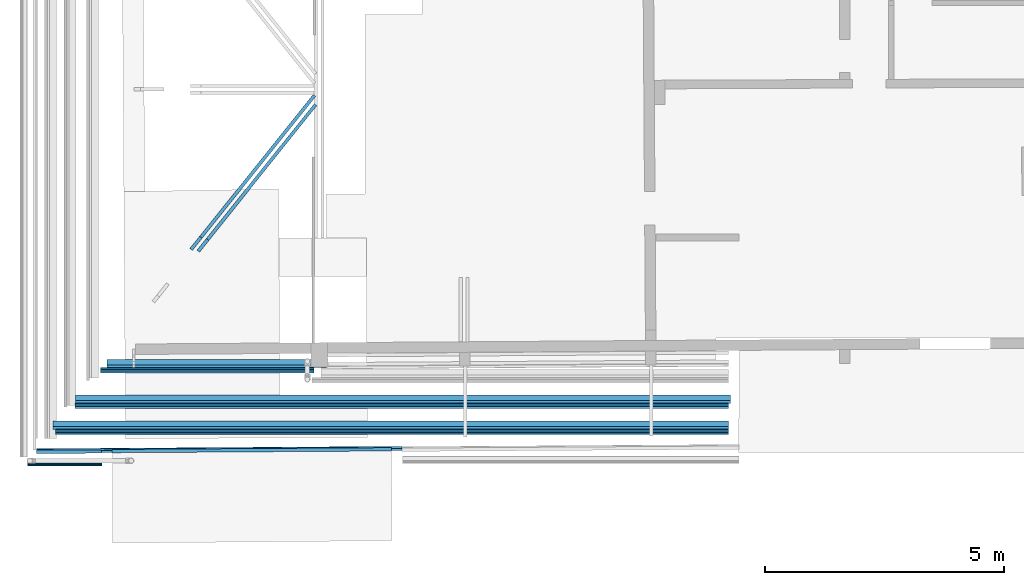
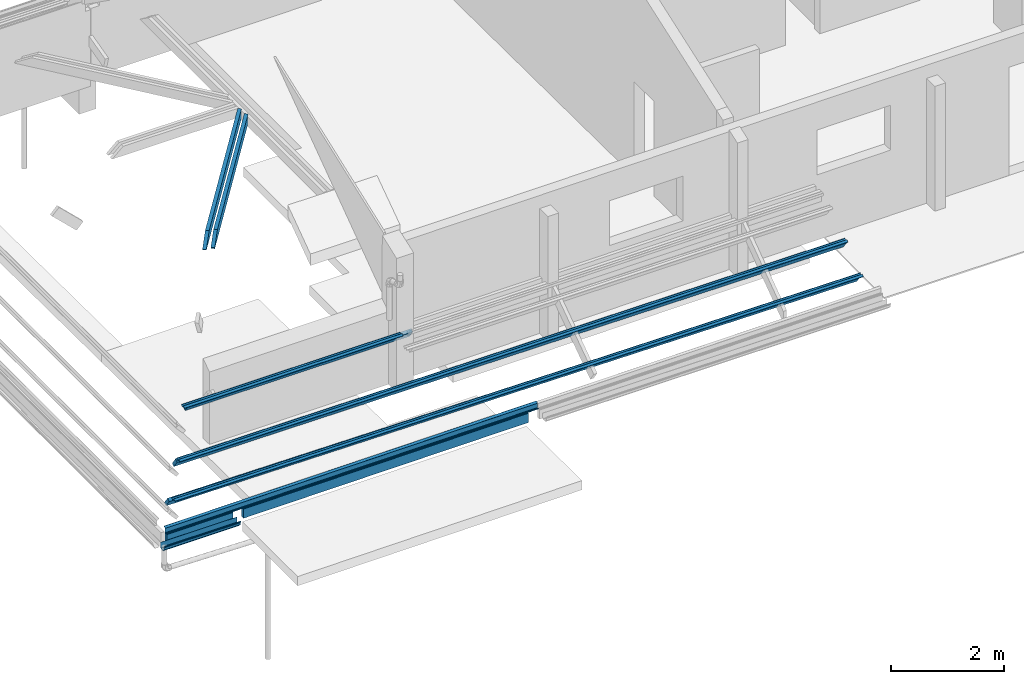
# One storey, part 1 of 15: 12 beams.
"""IFC2X3 building model written with IfcOpenShell, lengths in centimetres."""

import ifcopenshell
import ifcopenshell.guid

model = None  # the IFC model being written
_history = None  # IfcOwnerHistory: only IFC2X3 demands one
_inside = {}  # id of a spatial element -> (the spatial element, [elements in it])
_under = {}  # id of a project, library or spatial element -> (it, [spatial elements below it])
_declared = {}  # id of a project -> (the project, [libraries it declares])
_typed = {}  # id of a type object -> (the type object, [elements of that type])
_made_of = {}  # id of a material, layer set ... -> (it, [elements and type objects made of it])


def new_model(schema):
    """Start an empty IFC model of exactly this schema.

    Asked for "IFC4X3", IfcOpenShell would pick the latest addendum, in which some entities
    have other attributes; the version numbers below select the first issue.
    IFC2X3 requires an IfcOwnerHistory on every rooted entity: one is made here for all.
    """
    global model, _history
    if schema == "IFC4X3":
        model = ifcopenshell.file(schema_version=(4, 3, 0, 0))
    else:
        model = ifcopenshell.file(schema=schema)
    _inside.clear()
    _under.clear()
    _declared.clear()
    _typed.clear()
    _made_of.clear()
    _history = None
    if model.schema == "IFC2X3":
        org = make("IfcOrganization", Name="unknown")
        user = make(
            "IfcPersonAndOrganization",
            ThePerson=make("IfcPerson", FamilyName="unknown"),
            TheOrganization=org,
        )
        app = make(
            "IfcApplication",
            ApplicationDeveloper=org,
            Version="unknown",
            ApplicationFullName="unknown",
            ApplicationIdentifier="unknown",
        )
        _history = make(
            "IfcOwnerHistory",
            OwningUser=user,
            OwningApplication=app,
            ChangeAction="ADDED",
            CreationDate=0,
        )
    return model


def make(cls, **values):
    """One entity of the class cls with the attributes given. An attribute that is None is left unset."""
    return model.create_entity(
        cls, **{name: value for name, value in values.items() if value is not None}
    )


def entity(cls, *values):
    """Any entity or typed value of the class cls, its attributes in the order of the schema. None: left unset."""
    e = model.create_entity(cls)
    for i, value in enumerate(values):
        if value is not None:
            e[i] = value
    return e


def rooted(cls, **values):
    """An entity with a GlobalId (a new one), such as an element, a storey or a relation."""
    return make(cls, GlobalId=ifcopenshell.guid.new(), OwnerHistory=_history, **values)


def si_unit(unit_type, name, prefix=None):
    """IfcSIUnit, for example si_unit("LENGTHUNIT", "METRE", prefix="MILLI")."""
    return make("IfcSIUnit", UnitType=unit_type, Prefix=prefix, Name=name)


def converted_unit(unit_type, name, factor, base, dimensions=None, offset=None):
    """IfcConversionBasedUnit, such as the inch: factor (a typed value) times the base unit."""
    return make(
        "IfcConversionBasedUnit"
        if offset is None
        else "IfcConversionBasedUnitWithOffset",
        ConversionOffset=offset,
        Dimensions=None
        if dimensions is None
        else entity("IfcDimensionalExponents", *dimensions),
        UnitType=unit_type,
        Name=name,
        ConversionFactor=make(
            "IfcMeasureWithUnit", ValueComponent=factor, UnitComponent=base
        ),
    )


def assignment(units):
    """IfcUnitAssignment: the units of a project."""
    return None if units is None else make("IfcUnitAssignment", Units=units)


def point(xyz):
    """IfcCartesianPoint."""
    return None if xyz is None else make("IfcCartesianPoint", Coordinates=xyz)


def direction(xyz):
    """IfcDirection."""
    return None if xyz is None else make("IfcDirection", DirectionRatios=xyz)


def frame(location, z_axis=None, x_axis=None):
    """IfcAxis2Placement3D, a coordinate frame: its origin and axes. An axis left out is left unset."""
    return make(
        "IfcAxis2Placement3D",
        Location=point(location),
        Axis=direction(z_axis),
        RefDirection=direction(x_axis),
    )


def frame_2d(location, x_axis=None):
    """IfcAxis2Placement2D, a coordinate frame in the plane: its origin and x axis."""
    return make(
        "IfcAxis2Placement2D", Location=point(location), RefDirection=direction(x_axis)
    )


def origin():
    """The frame at (0, 0, 0) with its axes left unset."""
    return frame((0.0, 0.0, 0.0))


def place(relative_to, where):
    """IfcLocalPlacement: puts the frame where relative to a parent placement (None: the world)."""
    return make(
        "IfcLocalPlacement", PlacementRelTo=relative_to, RelativePlacement=where
    )


def context(
    kind, dimensions, precision=None, world=None, true_north=None, identifier=None
):
    """IfcGeometricRepresentationContext, for example the 3D "Model" context."""
    return make(
        "IfcGeometricRepresentationContext",
        ContextIdentifier=identifier,
        ContextType=kind,
        CoordinateSpaceDimension=dimensions,
        Precision=precision,
        WorldCoordinateSystem=world,
        TrueNorth=true_north,
    )


def subcontext(parent, identifier, kind, view, scale=None):
    """IfcGeometricRepresentationSubContext, for example "Body" below "Model"."""
    return make(
        "IfcGeometricRepresentationSubContext",
        ContextIdentifier=identifier,
        ContextType=kind,
        ParentContext=parent,
        TargetScale=scale,
        TargetView=view,
    )


def project(units=None, contexts=None):
    """IfcProject with its units and contexts."""
    return rooted(
        "IfcProject",
        Name="project",
        RepresentationContexts=contexts,
        UnitsInContext=assignment(units),
    )


def spatial(cls, under=None, at=None, **own):
    """A site, building, storey or space (cls), placed at a placement, below another one or the project."""
    s = rooted(cls, ObjectPlacement=at, **own)
    if under is not None:
        _under.setdefault(under.id(), (under, []))[1].append(s)
    return s


def polyline(points):
    """IfcPolyline through the points."""
    return make("IfcPolyline", Points=[point(p) for p in points])


def circle_curve(where, radius):
    """IfcCircle in the frame where."""
    return make("IfcCircle", Position=where, Radius=radius)


def parameter(value):
    """IfcParameterValue: where a trimmed curve begins or ends, as a parameter of its basis curve."""
    return model.create_entity("IfcParameterValue", value)


def trimmed(basis, trim1, trim2, sense, master):
    """IfcTrimmedCurve: the piece of a basis curve between two trims."""
    return make(
        "IfcTrimmedCurve",
        BasisCurve=basis,
        Trim1=trim1,
        Trim2=trim2,
        SenseAgreement=sense,
        MasterRepresentation=master,
    )


def segment(curve, same_sense, transition):
    """IfcCompositeCurveSegment."""
    return make(
        "IfcCompositeCurveSegment",
        Transition=transition,
        SameSense=same_sense,
        ParentCurve=curve,
    )


def composite_curve(segments, self_intersect=None):
    """IfcCompositeCurve: segments joined end to end."""
    return make("IfcCompositeCurve", Segments=segments, SelfIntersect=self_intersect)


def profile(cls, at=None, kind="AREA", **sizes):
    """A parametric profile (cls). Its sizes go by their IFC names, for example OverallWidth=200.0."""
    return make(cls, ProfileType=kind, Position=at, **sizes)


def rectangle(**sizes):
    """IfcRectangleProfileDef."""
    return profile("IfcRectangleProfileDef", **sizes)


def outline(outer, holes=None, kind="AREA"):
    """IfcArbitraryClosedProfileDef: a profile drawn as a closed curve; with holes, ...WithVoids."""
    if holes is None:
        return make("IfcArbitraryClosedProfileDef", ProfileType=kind, OuterCurve=outer)
    return make(
        "IfcArbitraryProfileDefWithVoids",
        ProfileType=kind,
        OuterCurve=outer,
        InnerCurves=holes,
    )


def extrude(swept, where, along, depth):
    """IfcExtrudedAreaSolid: the profile swept, set in the frame where, extruded along a direction by depth."""
    return make(
        "IfcExtrudedAreaSolid",
        SweptArea=swept,
        Position=where,
        ExtrudedDirection=direction(along),
        Depth=depth,
    )


def clip(a, b, op="DIFFERENCE"):
    """IfcBooleanClippingResult: the solid a cut by the half space b."""
    return make(
        "IfcBooleanClippingResult", Operator=op, FirstOperand=a, SecondOperand=b
    )


def halfspace(plane, agree):
    """IfcHalfSpaceSolid: all space on one side of the plane z = 0 of the frame plane."""
    return make(
        "IfcHalfSpaceSolid",
        BaseSurface=make("IfcPlane", Position=plane),
        AgreementFlag=agree,
    )


def shape(context_of_items, identifier, shape_type, items):
    """IfcShapeRepresentation: the items that make up one representation, for example the "Body"."""
    return make(
        "IfcShapeRepresentation",
        ContextOfItems=context_of_items,
        RepresentationIdentifier=identifier,
        RepresentationType=shape_type,
        Items=items,
    )


def material(Name=None, Category=None):
    """IfcMaterial."""
    return make("IfcMaterial", Name=Name, Category=Category)


def made_of(thing, what):
    """Note that an element or type object is made of a material, layer set ...; save() writes the relation."""
    if what is not None:
        _made_of.setdefault(what.id(), (what, []))[1].append(thing)
    return thing


def type_object(cls, material=None, **own):
    """A type object (cls), such as IfcWallType, which elements share."""
    return made_of(rooted(cls, **own), material)


def element(
    cls,
    number,
    at=None,
    inside=None,
    cuts=None,
    type_object=None,
    material=None,
    context=None,
    identifier="Body",
    shape_type=None,
    held_by="IfcProductDefinitionShape",
    body=None,
    shapes=None,
    **own,
):
    """One element of the class cls, such as IfcWall. Its Tag is "e" and its number.

    at: its placement. inside: the storey or other place that contains it. cuts: it is an
    opening in that element (IfcRelVoidsElement). A single representation is given by context,
    identifier, shape_type and body (its items); several are given by shapes. held_by: the class
    of the entity that holds the representations. save() writes the other relations.
    """
    e = rooted(cls, Tag="e%d" % number, ObjectPlacement=at, **own)
    if body is not None:
        shapes = [shape(context, identifier, shape_type, body)]
    if shapes is not None:
        e.Representation = make(held_by, Representations=shapes)
    if inside is not None:
        _inside.setdefault(inside.id(), (inside, []))[1].append(e)
    if cuts is not None:
        rooted(
            "IfcRelVoidsElement", RelatingBuildingElement=cuts, RelatedOpeningElement=e
        )
    if type_object is not None:
        _typed.setdefault(type_object.id(), (type_object, []))[1].append(e)
    return made_of(e, material)


def aggregate(whole, parts):
    """IfcRelAggregates: a whole, such as a stair, and the parts it consists of."""
    return rooted("IfcRelAggregates", RelatingObject=whole, RelatedObjects=parts)


def save(model, path):
    """Write the relations noted so far, then the file.

    IfcRelAggregates (storeys below a building ...), IfcRelContainedInSpatialStructure (elements
    in a storey), IfcRelDefinesByType, IfcRelAssociatesMaterial and IfcRelDeclares: one each for
    every whole, place, type object, material and project.
    """
    for whole, parts in _under.values():
        aggregate(whole, parts)
    for where, things in _inside.values():
        rooted(
            "IfcRelContainedInSpatialStructure",
            RelatedElements=things,
            RelatingStructure=where,
        )
    for kind, things in _typed.values():
        rooted("IfcRelDefinesByType", RelatedObjects=things, RelatingType=kind)
    for what, things in _made_of.values():
        rooted("IfcRelAssociatesMaterial", RelatedObjects=things, RelatingMaterial=what)
    for by, libraries in _declared.values():
        rooted("IfcRelDeclares", RelatingContext=by, RelatedDefinitions=libraries)
    model.write(path)


model = new_model("IFC2X3")

# Units and contexts
model_context = context("Model", 3, precision=0.001, world=frame((0.0, 0.0, 13090.0)), true_north=direction((6.123233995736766e-17, 1.0)))
body_context = subcontext(model_context, "Body", "Model", "MODEL_VIEW")
ifc_project = project(units=[si_unit("LENGTHUNIT", "METRE", prefix="CENTI"), si_unit("AREAUNIT", "SQUARE_METRE"), si_unit("VOLUMEUNIT", "CUBIC_METRE"), converted_unit("PLANEANGLEUNIT", "DEGREE", entity("IfcPlaneAngleMeasure", 0.017453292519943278), si_unit("PLANEANGLEUNIT", "RADIAN"), dimensions=[0, 0, 0, 0, 0, 0, 0])], contexts=[model_context])

# Site, building, storey
site_placement = place(None, origin())
site = spatial("IfcSite", under=ifc_project, at=site_placement, Name="Default", CompositionType="ELEMENT")
building_placement = place(site_placement, origin())
building = spatial("IfcBuilding", under=site, at=building_placement, Name="e 39 logements et 22 maisons relais", CompositionType="ELEMENT")
storey_placement = place(building_placement, frame((0.0, 0.0, 340.0)))
storey = spatial("IfcBuildingStorey", under=building, at=storey_placement, Name="R+1", CompositionType="ELEMENT", Elevation=339.99999999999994)

# Beams
ifc_material_1 = material(Name="Bois - Bois de construction de dimensions courantes")
beam_type_1 = type_object("IfcBeamType", Name="Poutre - Bois de construction de dimensions courantes:70 200", PredefinedType="BEAM")
beam_1_placement = place(storey_placement, frame((-682.3302602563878, -676.9245388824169, 66.4), z_axis=(0.00323814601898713, 0.0, 0.9999947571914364), x_axis=(-0.9999947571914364, 0.0, 0.00323814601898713)))
element("IfcBeam", 1, at=beam_1_placement, inside=storey, type_object=beam_type_1, material=ifc_material_1, Name="Poutre - Bois de construction de dimensions courantes:70 200", ObjectType="Poutre - Bois de construction de dimensions courantes:70 200", context=body_context, shape_type="SweptSolid", body=[
    extrude(rectangle(XDim=20.00000000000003, YDim=7.000000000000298, at=frame_2d((1.2656542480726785e-14, 7.638334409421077e-14), x_axis=(0.0, 1.0))), frame((-629.9997113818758, -5.516678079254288, -7.734097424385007), z_axis=(1.0, 0.0, 0.0), x_axis=(0.0, -0.8141155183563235, 0.580702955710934)), (0.0, 0.0, 1.0), 1370.1000000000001),
])
beam_2_placement = place(storey_placement, frame((-578.1460418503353, -730.9865507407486, 27.30000000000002), z_axis=(0.006282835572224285, 0.0, 0.9999802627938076), x_axis=(-0.9999802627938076, 0.0, 0.006282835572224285)))
element("IfcBeam", 2, at=beam_2_placement, inside=storey, type_object=beam_type_1, material=ifc_material_1, Name="Poutre - Bois de construction de dimensions courantes:70 200", ObjectType="Poutre - Bois de construction de dimensions courantes:70 200", context=body_context, shape_type="SweptSolid", body=[
    extrude(rectangle(XDim=20.000000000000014, YDim=7.000000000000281, at=frame_2d((-7.549516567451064e-14, 1.2434497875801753e-14), x_axis=(0.0, 1.0))), frame((-522.1366470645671, -5.4005374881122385, -7.571274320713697), z_axis=(1.0, 0.0, 0.0), x_axis=(0.0, -0.8141155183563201, 0.5807029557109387)), (0.0, 0.0, 1.0), 1413.9313977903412),
])
beam_3_placement = place(storey_placement, frame((-972.4380074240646, -120.34924568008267, 266.32572503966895), z_axis=(0.0, 0.0, 1.0), x_axis=(-0.6248402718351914, -0.7807526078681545, 0.0)))
element("IfcBeam", 3, at=beam_3_placement, inside=storey, type_object=beam_type_1, material=ifc_material_1, Name="Poutre - Bois de construction de dimensions courantes:70 200", ObjectType="Poutre - Bois de construction de dimensions courantes:70 200", context=body_context, shape_type="Clipping", body=[
    clip(extrude(rectangle(XDim=20.0, YDim=7.000000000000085, at=frame_2d((1.20570220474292e-13, 0.0), x_axis=(0.0, 1.0))), frame((-83.49252089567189, 0.0, -10.0), z_axis=(1.0, 0.0, 0.0), x_axis=(0.0, 1.0, 0.0)), (0.0, 0.0, 1.0), 392.55819188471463), halfspace(frame((221.00747817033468, -392.55819188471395, 31.60814003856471), z_axis=(0.48692450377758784, 0.0, 0.8734440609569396), x_axis=(0.0, 1.0, 0.0)), False)),
])
beam_4_placement = place(storey_placement, frame((-983.3685439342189, -111.60148187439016, 266.32572503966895), z_axis=(0.0, 0.0, 1.0), x_axis=(-0.6248402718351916, -0.7807526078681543, 0.0)))
element("IfcBeam", 4, at=beam_4_placement, inside=storey, type_object=beam_type_1, material=ifc_material_1, Name="Poutre - Bois de construction de dimensions courantes:70 200", ObjectType="Poutre - Bois de construction de dimensions courantes:70 200", context=body_context, shape_type="Clipping", body=[
    clip(extrude(rectangle(XDim=20.0, YDim=7.000000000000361, at=frame_2d((-1.0658141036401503e-14, 0.0), x_axis=(0.0, 1.0))), frame((-97.31685809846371, 0.0, -10.0), z_axis=(1.0, 0.0, 0.0), x_axis=(0.0, 1.0, 0.0)), (0.0, 0.0, 1.0), 413.0179422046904), halfspace(frame((221.00747817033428, -413.01794220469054, 34.89691046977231), z_axis=(0.49070508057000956, 0.0, 0.8713257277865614), x_axis=(0.0, 1.0, 0.0)), False)),
])
beam_5_placement = place(storey_placement, frame((-682.3302602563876, -602.3023594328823, 121.48453251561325), z_axis=(0.0, 0.0, 1.0), x_axis=(-1.0, 0.0, 0.0)))
element("IfcBeam", 5, at=beam_5_placement, inside=storey, type_object=beam_type_1, material=ifc_material_1, Name="Poutre - Bois de construction de dimensions courantes:70 200", ObjectType="Poutre - Bois de construction de dimensions courantes:70 200", context=body_context, shape_type="SweptSolid", body=[
    extrude(rectangle(XDim=20.000000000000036, YDim=7.000000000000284, at=frame_2d((-4.39648317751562e-14, -3.108624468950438e-14), x_axis=(0.0, 1.0))), frame((214.65114831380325, -5.807029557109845, -8.141155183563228), z_axis=(1.0, 0.0, 0.0), x_axis=(0.0, -0.8141155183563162, 0.5807029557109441)), (0.0, 0.0, 1.0), 459.42130636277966),
])
beam_6_placement = place(storey_placement, frame((-1904.5647430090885, -784.2270481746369, 14.985725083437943), z_axis=(0.0, 0.0, 1.0), x_axis=(-0.9999784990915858, -0.006557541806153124, 0.0)))
element("IfcBeam", 6, at=beam_6_placement, inside=storey, type_object=beam_type_1, material=ifc_material_1, Name="Poutre - Bois de construction de dimensions courantes:70 200", ObjectType="Poutre - Bois de construction de dimensions courantes:70 200", context=body_context, shape_type="SweptSolid", body=[
    extrude(rectangle(XDim=20.0, YDim=7.000000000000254, at=frame_2d((0.0, 5.395683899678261e-14), x_axis=(1.0, 0.0))), frame((-536.6670283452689, 0.0, -22.0), z_axis=(1.0, 0.0, 0.0), x_axis=(0.0, 0.0, -1.0)), (0.0, 0.0, 1.0), 135.86089735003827),
])
beam_7_placement = place(storey_placement, frame((-1563.8253121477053, -781.4344195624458, 14.016671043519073), z_axis=(0.0, 0.0, 1.0), x_axis=(-0.9999784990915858, -0.006557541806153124, 0.0)))
element("IfcBeam", 7, at=beam_7_placement, inside=storey, type_object=beam_type_1, material=ifc_material_1, Name="Poutre - Bois de construction de dimensions courantes:70 200", ObjectType="Poutre - Bois de construction de dimensions courantes:70 200", context=body_context, shape_type="SweptSolid", body=[
    extrude(rectangle(XDim=20.0, YDim=7.000000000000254, at=frame_2d((0.0, 5.395683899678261e-14), x_axis=(1.0, 0.0))), frame((-802.5806336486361, 0.0, -22.0), z_axis=(1.0, 0.0, 0.0), x_axis=(0.0, 0.0, -1.0)), (0.0, 0.0, 1.0), 584.6640227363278),
])
ifc_material_2 = material(Name="neuf")
beam_type_2 = type_object("IfcBeamType", Name="gouttiere ALU G400:gouttiere ALU G400", PredefinedType="BEAM")
beam_8_placement = place(storey_placement, frame((-1710.1057664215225, -795.8693546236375, 20.53905233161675), z_axis=(0.0, 0.0, 1.0), x_axis=(-1.0, 0.0, 0.0)))
element("IfcBeam", 8, at=beam_8_placement, inside=storey, type_object=beam_type_2, material=ifc_material_2, Name="gouttiere ALU G400:gouttiere ALU G400", ObjectType="gouttiere ALU G400:gouttiere ALU G400", context=body_context, shape_type="SweptSolid", body=[
    extrude(outline(composite_curve([segment(polyline([(-6.028675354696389, -10.418144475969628), (4.915125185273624, -10.418144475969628)]), True, "CONTINUOUS"), segment(trimmed(circle_curve(frame_2d((4.482502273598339, -7.967211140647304), x_axis=(0.17382635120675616, -0.9847763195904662)), 2.4888223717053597), [parameter(0.0)], [parameter(79.98963375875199)], True, "PARAMETER"), True, "CONTINUOUS"), segment(polyline([(6.971324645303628, -7.967211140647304), (6.971324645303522, -1.467211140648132)]), True, "CONTINUOUS"), segment(trimmed(circle_curve(frame_2d((5.6045317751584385, -1.4672111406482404), x_axis=(1.0, 0.0)), 1.366792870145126), [parameter(0.0)], [parameter(80.76228289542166)], True, "PARAMETER"), True, "CONTINUOUS"), segment(polyline([(5.823944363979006, -0.1181444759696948), (4.738394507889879, -0.1181444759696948)]), True, "CONTINUOUS"), segment(trimmed(circle_curve(frame_2d((4.738394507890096, 0.5488704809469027), x_axis=(0.0, -1.0)), 0.6670149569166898), [parameter(270.00000000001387)], [parameter(0.0)], True, "PARAMETER"), False, "CONTINUOUS"), segment(trimmed(circle_curve(frame_2d((2.651166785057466, 0.5488704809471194), x_axis=(1.0, 0.0)), 1.4202127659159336), [parameter(0.0)], [parameter(75.70274320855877)], True, "PARAMETER"), True, "CONTINUOUS"), segment(polyline([(3.001892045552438, 1.9250957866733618), (-3.0280800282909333, 2.8687394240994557)]), True, "CONTINUOUS"), segment(trimmed(circle_curve(frame_2d((-2.8287143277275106, 3.633036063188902), x_axis=(-0.2524028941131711, -0.9676222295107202)), 0.7898708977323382), [parameter(284.61974875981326)], [parameter(0.0)], True, "PARAMETER"), False, "CONTINUOUS"), segment(polyline([(-3.6185852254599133, 3.633036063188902), (-3.6185852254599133, 4.392159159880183)]), True, "CONTINUOUS"), segment(trimmed(circle_curve(frame_2d((-4.4100640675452, 4.3921591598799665), x_axis=(1.0, 0.0)), 0.7914788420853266), [parameter(0.0)], [parameter(89.9999999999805)], True, "PARAMETER"), True, "CONTINUOUS"), segment(polyline([(-4.410064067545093, 5.183638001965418), (-4.5969640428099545, 5.183638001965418)]), True, "CONTINUOUS"), segment(trimmed(circle_curve(frame_2d((-4.5969640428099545, 4.455817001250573), x_axis=(0.0, 1.0)), 0.7278210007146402), [parameter(0.0)], [parameter(90.00000000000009)], True, "PARAMETER"), True, "CONTINUOUS"), segment(polyline([(-5.324785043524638, 4.455817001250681), (-5.509735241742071, 2.716322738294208)]), True, "CONTINUOUS"), segment(polyline([(-5.509735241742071, 2.7163227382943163), (-5.30863358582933, 2.7163227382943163)]), True, "CONTINUOUS"), segment(polyline([(-5.308633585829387, 2.7163227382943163), (-5.126213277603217, 4.451936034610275)]), True, "CONTINUOUS"), segment(trimmed(circle_curve(frame_2d((-4.59629378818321, 4.451936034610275), x_axis=(-1.0, 0.0)), 0.5299194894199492), [parameter(269.99999999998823)], [parameter(0.0)], True, "PARAMETER"), False, "CONTINUOUS"), segment(polyline([(-4.596293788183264, 4.981855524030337), (-4.409626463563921, 4.981855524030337)]), True, "CONTINUOUS"), segment(trimmed(circle_curve(frame_2d((-4.409626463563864, 4.391273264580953), x_axis=(0.0, 1.0)), 0.5905822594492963), [parameter(269.9999999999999)], [parameter(0.0)], True, "PARAMETER"), False, "CONTINUOUS"), segment(polyline([(-3.8190442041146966, 4.391273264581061), (-3.8190442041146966, 3.6331166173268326)]), True, "CONTINUOUS"), segment(trimmed(circle_curve(frame_2d((-2.8289568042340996, 3.633116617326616), x_axis=(-1.0, 0.0)), 0.99008739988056), [parameter(0.0)], [parameter(75.99999999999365)], True, "PARAMETER"), True, "CONTINUOUS"), segment(polyline([(-3.0684806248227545, 2.6724390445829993), (2.9612947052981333, 1.729014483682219)]), True, "CONTINUOUS"), segment(trimmed(circle_curve(frame_2d((2.6511667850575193, 0.5488704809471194), x_axis=(0.25415888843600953, 0.9671624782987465)), 1.2202127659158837), [parameter(284.72375106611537)], [parameter(0.0)], True, "PARAMETER"), False, "CONTINUOUS"), segment(trimmed(circle_curve(frame_2d((4.738394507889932, 0.5488704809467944), x_axis=(-1.0, 0.0)), 0.8670149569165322), [parameter(0.0)], [parameter(90.00000000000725)], True, "PARAMETER"), True, "CONTINUOUS"), segment(polyline([(4.738394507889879, -0.3181444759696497), (5.80714323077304, -0.3181444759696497)]), True, "CONTINUOUS"), segment(trimmed(circle_curve(frame_2d((5.604531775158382, -1.4672111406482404), x_axis=(0.17364817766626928, 0.9848077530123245)), 1.166792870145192), [parameter(279.9999999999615)], [parameter(0.0)], True, "PARAMETER"), False, "CONTINUOUS"), segment(polyline([(6.7713246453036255, -1.467211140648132), (6.7713246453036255, -7.967211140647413)]), True, "CONTINUOUS"), segment(trimmed(circle_curve(frame_2d((4.482502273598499, -7.967211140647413), x_axis=(1.0, 0.0)), 2.2888223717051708), [parameter(280.43973077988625)], [parameter(0.0)], True, "PARAMETER"), False, "CONTINUOUS"), segment(polyline([(4.897239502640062, -10.218144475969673), (-6.028675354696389, -10.218144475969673)]), True, "CONTINUOUS"), segment(polyline([(-6.028675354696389, -10.218144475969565), (-6.028675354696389, -10.418144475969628)]), True, "CONTINUOUS")], self_intersect=False)), frame((-343.1057670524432, 10.218144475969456, -27.028675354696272), z_axis=(1.0, 0.0, 0.0), x_axis=(0.0, 0.0, -1.0)), (0.0, 0.0, 1.0), 156.03529920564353),
])
beam_type_3 = type_object("IfcBeamType", Name="panne z:panne z", PredefinedType="BEAM")
beam_9_placement = place(storey_placement, frame((-570.9302602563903, -612.3344507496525, 129.93641653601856), z_axis=(0.0, 0.0, 1.0), x_axis=(-1.0, 0.0, 0.0)))
element("IfcBeam", 9, at=beam_9_placement, inside=storey, type_object=beam_type_3, material=ifc_material_2, Name="panne z:panne z", ObjectType="panne z:panne z", context=body_context, shape_type="SweptSolid", body=[
    extrude(outline(composite_curve([segment(polyline([(-4.5999999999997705, -3.0), (-0.29999999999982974, -3.0)]), True, "CONTINUOUS"), segment(trimmed(circle_curve(frame_2d((-0.29999999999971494, -2.600000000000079), x_axis=(0.0, -1.0)), 0.399999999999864), [parameter(0.0)], [parameter(90.00000000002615)], True, "PARAMETER"), True, "CONTINUOUS"), segment(polyline([(0.10000000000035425, -2.5999999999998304), (0.10000000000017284, 2.600000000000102)]), True, "CONTINUOUS"), segment(trimmed(circle_curve(frame_2d((0.30000000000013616, 2.600000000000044), x_axis=(-1.0, 0.0)), 0.20000000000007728), [parameter(270.00000000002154)], [parameter(0.0)], True, "PARAMETER"), False, "CONTINUOUS"), segment(polyline([(0.3000000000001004, 2.800000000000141), (4.600000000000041, 2.8000000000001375)]), True, "CONTINUOUS"), segment(trimmed(circle_curve(frame_2d((4.6000000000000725, 2.600000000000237), x_axis=(0.0, 1.0)), 0.20000000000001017), [parameter(270.00000000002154)], [parameter(0.0)], True, "PARAMETER"), False, "CONTINUOUS"), segment(polyline([(4.800000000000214, 2.600000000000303), (4.800000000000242, 1.0)]), True, "CONTINUOUS"), segment(polyline([(4.800000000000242, 1.0), (5.0, 1.0)]), True, "CONTINUOUS"), segment(polyline([(5.0, 1.0), (5.0, 2.6000000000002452)]), True, "CONTINUOUS"), segment(trimmed(circle_curve(frame_2d((4.600000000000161, 2.600000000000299), x_axis=(1.0, 0.0)), 0.3999999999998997), [parameter(0.0)], [parameter(90.00000000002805)], True, "PARAMETER"), True, "CONTINUOUS"), segment(polyline([(4.600000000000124, 3.0), (0.3000000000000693, 3.0)]), True, "CONTINUOUS"), segment(trimmed(circle_curve(frame_2d((0.2999999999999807, 2.6000000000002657), x_axis=(0.0, 1.0)), 0.399999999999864), [parameter(0.0)], [parameter(90.00000000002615)], True, "PARAMETER"), True, "CONTINUOUS"), segment(polyline([(-0.09999999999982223, 2.6000000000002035), (-0.09999999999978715, -2.599999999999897)]), True, "CONTINUOUS"), segment(trimmed(circle_curve(frame_2d((-0.29999999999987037, -2.5999999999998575), x_axis=(1.0, 0.0)), 0.20000000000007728), [parameter(270.00000000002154)], [parameter(0.0)], True, "PARAMETER"), False, "CONTINUOUS"), segment(polyline([(-0.2999999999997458, -2.7999999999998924), (-4.599999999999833, -2.800000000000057)]), True, "CONTINUOUS"), segment(trimmed(circle_curve(frame_2d((-4.599999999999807, -2.6000000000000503), x_axis=(0.0, -1.0)), 0.20000000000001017), [parameter(270.00000000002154)], [parameter(0.0)], True, "PARAMETER"), False, "CONTINUOUS"), segment(polyline([(-4.799999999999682, -2.5999999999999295), (-4.799999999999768, -1.0)]), True, "CONTINUOUS"), segment(polyline([(-4.799999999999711, -1.0), (-5.0, -1.0)]), True, "CONTINUOUS"), segment(polyline([(-5.0, -1.0), (-5.0, -2.6000000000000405)]), True, "CONTINUOUS"), segment(trimmed(circle_curve(frame_2d((-4.599999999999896, -2.6000000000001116), x_axis=(-1.0, 0.0)), 0.3999999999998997), [parameter(0.0)], [parameter(90.00000000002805)], True, "PARAMETER"), True, "CONTINUOUS")], self_intersect=False)), frame((352.09921444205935, -1.5385808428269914, -2.1973211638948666), z_axis=(1.0, 0.0, 0.0), x_axis=(0.0, -0.8191520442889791, 0.5735764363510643)), (0.0, 0.0, 1.0), 447.4095919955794),
])
beam_10_placement = place(storey_placement, frame((-570.9302602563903, -686.7266823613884, 75.59999999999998), z_axis=(0.0022573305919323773, 0.0, 0.9999974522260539), x_axis=(-0.9999974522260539, 0.0, 0.0022573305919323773)))
element("IfcBeam", 10, at=beam_10_placement, inside=storey, type_object=beam_type_3, material=ifc_material_2, Name="panne z:panne z", ObjectType="panne z:panne z", context=body_context, shape_type="SweptSolid", body=[
    extrude(outline(composite_curve([segment(polyline([(-4.599999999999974, -3.0), (-0.29999999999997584, -3.0)]), True, "CONTINUOUS"), segment(trimmed(circle_curve(frame_2d((-0.2999999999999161, -2.599999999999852), x_axis=(0.0, -1.0)), 0.3999999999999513), [parameter(0.0)], [parameter(90.00000000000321)], True, "PARAMETER"), True, "CONTINUOUS"), segment(polyline([(0.10000000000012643, -2.5999999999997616), (0.10000000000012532, 2.6000000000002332)]), True, "CONTINUOUS"), segment(trimmed(circle_curve(frame_2d((0.30000000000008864, 2.600000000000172), x_axis=(-1.0, 0.0)), 0.20000000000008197), [parameter(270.0000000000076)], [parameter(0.0)], True, "PARAMETER"), False, "CONTINUOUS"), segment(polyline([(0.29999999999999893, 2.8000000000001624), (4.599999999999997, 2.8000000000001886)]), True, "CONTINUOUS"), segment(trimmed(circle_curve(frame_2d((4.600000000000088, 2.6000000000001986), x_axis=(0.0, 1.0)), 0.20000000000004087), [parameter(270.0000000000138)], [parameter(0.0)], True, "PARAMETER"), False, "CONTINUOUS"), segment(polyline([(4.800000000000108, 2.6000000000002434), (4.800000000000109, 1.0)]), True, "CONTINUOUS"), segment(polyline([(4.800000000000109, 1.0), (5.0, 1.0)]), True, "CONTINUOUS"), segment(polyline([(5.0, 1.0), (5.0, 2.6000000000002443)]), True, "CONTINUOUS"), segment(trimmed(circle_curve(frame_2d((4.600000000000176, 2.6000000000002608), x_axis=(1.0, 0.0)), 0.39999999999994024), [parameter(0.0)], [parameter(90.00000000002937)], True, "PARAMETER"), True, "CONTINUOUS"), segment(polyline([(4.600000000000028, 3.0), (0.30000000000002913, 3.0)]), True, "CONTINUOUS"), segment(trimmed(circle_curve(frame_2d((0.3000000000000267, 2.6000000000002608), x_axis=(0.0, 1.0)), 0.3999999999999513), [parameter(0.0)], [parameter(90.00000000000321)], True, "PARAMETER"), True, "CONTINUOUS"), segment(polyline([(-0.09999999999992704, 2.6000000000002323), (-0.09999999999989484, -2.599999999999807)]), True, "CONTINUOUS"), segment(trimmed(circle_curve(frame_2d((-0.30000000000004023, -2.5999999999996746), x_axis=(1.0, 0.0)), 0.2000000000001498), [parameter(270.00000000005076)], [parameter(0.0)], True, "PARAMETER"), False, "CONTINUOUS"), segment(polyline([(-0.29999999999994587, -2.7999999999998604), (-4.599999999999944, -2.799999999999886)]), True, "CONTINUOUS"), segment(trimmed(circle_curve(frame_2d((-4.5999999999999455, -2.5999999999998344), x_axis=(0.0, -1.0)), 0.20000000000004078), [parameter(270.0000000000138)], [parameter(0.0)], True, "PARAMETER"), False, "CONTINUOUS"), segment(polyline([(-4.799999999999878, -2.599999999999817), (-4.79999999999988, -1.0)]), True, "CONTINUOUS"), segment(polyline([(-4.79999999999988, -1.0), (-5.0, -1.0)]), True, "CONTINUOUS"), segment(polyline([(-5.0, -1.0), (-5.0, -2.599999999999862)]), True, "CONTINUOUS"), segment(trimmed(circle_curve(frame_2d((-4.600000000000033, -2.599999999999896), x_axis=(-1.0, 0.0)), 0.3999999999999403), [parameter(0.0)], [parameter(90.00000000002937)], True, "PARAMETER"), True, "CONTINUOUS")], self_intersect=False)), frame((-514.9650894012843, -1.5385808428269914, -2.1973211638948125), z_axis=(1.0, 0.0, 0.0), x_axis=(0.0, -0.8191520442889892, 0.5735764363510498)), (0.0, 0.0, 1.0), 1367.184577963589),
])
beam_11_placement = place(storey_placement, frame((-570.9302602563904, -741.2844262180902, 35.40000000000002), z_axis=(0.004966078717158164, 0.0, 0.9999876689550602), x_axis=(-0.9999876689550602, 0.0, 0.004966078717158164)))
element("IfcBeam", 11, at=beam_11_placement, inside=storey, type_object=beam_type_3, material=ifc_material_2, Name="panne z:panne z", ObjectType="panne z:panne z", context=body_context, shape_type="SweptSolid", body=[
    extrude(outline(composite_curve([segment(polyline([(-4.599999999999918, -3.0), (-0.2999999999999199, -3.0)]), True, "CONTINUOUS"), segment(trimmed(circle_curve(frame_2d((-0.2999999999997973, -2.600000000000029), x_axis=(0.0, -1.0)), 0.399999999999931), [parameter(0.0)], [parameter(90.00000000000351)], True, "PARAMETER"), True, "CONTINUOUS"), segment(polyline([(0.10000000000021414, -2.599999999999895), (0.10000000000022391, 2.6000000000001)]), True, "CONTINUOUS"), segment(trimmed(circle_curve(frame_2d((0.3000000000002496, 2.599999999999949), x_axis=(-1.0, 0.0)), 0.20000000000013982), [parameter(270.0000000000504)], [parameter(0.0)], True, "PARAMETER"), False, "CONTINUOUS"), segment(polyline([(0.30000000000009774, 2.8000000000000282), (4.600000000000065, 2.8000000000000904)]), True, "CONTINUOUS"), segment(trimmed(circle_curve(frame_2d((4.600000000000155, 2.6000000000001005), x_axis=(0.0, 1.0)), 0.20000000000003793), [parameter(270.00000000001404)], [parameter(0.0)], True, "PARAMETER"), False, "CONTINUOUS"), segment(polyline([(4.800000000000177, 2.6000000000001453), (4.800000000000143, 1.0)]), True, "CONTINUOUS"), segment(polyline([(4.800000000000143, 1.0), (5.0, 1.0)]), True, "CONTINUOUS"), segment(polyline([(5.0, 1.0), (5.0, 2.600000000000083)]), True, "CONTINUOUS"), segment(trimmed(circle_curve(frame_2d((4.600000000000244, 2.6000000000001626), x_axis=(1.0, 0.0)), 0.3999999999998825), [parameter(0.0)], [parameter(90.00000000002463)], True, "PARAMETER"), True, "CONTINUOUS"), segment(polyline([(4.6000000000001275, 3.0), (0.3000000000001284, 3.0)]), True, "CONTINUOUS"), segment(trimmed(circle_curve(frame_2d((0.3000000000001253, 2.6000000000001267), x_axis=(0.0, 1.0)), 0.3999999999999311), [parameter(0.0)], [parameter(90.00000000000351)], True, "PARAMETER"), True, "CONTINUOUS"), segment(polyline([(-0.09999999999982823, 2.600000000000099), (-0.09999999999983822, -2.5999999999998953)]), True, "CONTINUOUS"), segment(trimmed(circle_curve(frame_2d((-0.29999999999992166, -2.5999999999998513), x_axis=(1.0, 0.0)), 0.2000000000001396), [parameter(270.00000000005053)], [parameter(0.0)], True, "PARAMETER"), False, "CONTINUOUS"), segment(polyline([(-0.29999999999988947, -2.7999999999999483), (-4.59999999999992, -2.7999999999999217)]), True, "CONTINUOUS"), segment(trimmed(circle_curve(frame_2d((-4.5999999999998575, -2.599999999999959), x_axis=(0.0, -1.0)), 0.20000000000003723), [parameter(270.0000000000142)], [parameter(0.0)], True, "PARAMETER"), False, "CONTINUOUS"), segment(polyline([(-4.79999999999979, -2.599999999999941), (-4.799999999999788, -1.0)]), True, "CONTINUOUS"), segment(polyline([(-4.7999999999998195, -1.0), (-5.0, -1.0)]), True, "CONTINUOUS"), segment(polyline([(-5.0, -1.0), (-5.0, -2.599999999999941)]), True, "CONTINUOUS"), segment(trimmed(circle_curve(frame_2d((-4.599999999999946, -2.60000000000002), x_axis=(-1.0, 0.0)), 0.3999999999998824), [parameter(0.0)], [parameter(90.00000000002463)], True, "PARAMETER"), True, "CONTINUOUS")], self_intersect=False)), frame((-514.9650894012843, -1.5385808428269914, -2.197321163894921), z_axis=(1.0, 0.0, 0.0), x_axis=(0.0, -0.8191520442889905, 0.5735764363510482)), (0.0, 0.0, 1.0), 1408.8656452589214),
])
beam_type_4 = type_object("IfcBeamType", Name="panne z pente sup 35 deg2:panne z pente sup 35 deg2", PredefinedType="BEAM")
beam_12_placement = place(storey_placement, frame((-1331.961751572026, -777.9190081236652, 34.77017922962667), z_axis=(0.0, 0.0, 1.0), x_axis=(-0.9999784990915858, -0.006557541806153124, 0.0)))
element("IfcBeam", 12, at=beam_12_placement, inside=storey, type_object=beam_type_4, material=ifc_material_2, Name="panne z pente sup 35 deg2:panne z pente sup 35 deg2", ObjectType="panne z pente sup 35 deg2:panne z pente sup 35 deg2", context=body_context, shape_type="SweptSolid", body=[
    extrude(outline(composite_curve([segment(polyline([(-6.464903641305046, -4.455965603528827), (-4.864903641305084, -4.455965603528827)]), True, "CONTINUOUS"), segment(polyline([(-4.86490364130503, -4.4559656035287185), (-4.864903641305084, -4.255965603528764)]), True, "CONTINUOUS"), segment(polyline([(-4.864903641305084, -4.255965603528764), (-6.464903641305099, -4.255965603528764)]), True, "CONTINUOUS"), segment(trimmed(circle_curve(frame_2d((-6.464903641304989, -4.151677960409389), x_axis=(0.0, -1.0)), 0.10428764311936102), [parameter(240.00000000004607)], [parameter(0.0)], True, "PARAMETER"), False, "CONTINUOUS"), segment(polyline([(-6.555219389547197, -4.09953413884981), (-4.017155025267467, -0.47480257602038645)]), True, "CONTINUOUS"), segment(trimmed(circle_curve(frame_2d((-3.771545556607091, -0.646780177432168), x_axis=(-0.8191520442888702, 0.5735764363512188)), 0.29983379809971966), [parameter(317.7167105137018)], [parameter(0.0)], True, "PARAMETER"), False, "CONTINUOUS"), segment(polyline([(-3.837548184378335, -0.3543011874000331), (5.383024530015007, -0.3543011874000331)]), True, "CONTINUOUS"), segment(trimmed(circle_curve(frame_2d((5.383024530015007, 0.04569881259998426), x_axis=(0.0, -1.0)), 0.4000000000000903), [parameter(0.0)], [parameter(89.99999999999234)], True, "PARAMETER"), True, "CONTINUOUS"), segment(polyline([(5.783024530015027, 0.04569881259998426), (5.783024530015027, 4.345698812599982)]), True, "CONTINUOUS"), segment(trimmed(circle_curve(frame_2d((5.383024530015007, 4.345698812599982), x_axis=(1.0, 0.0)), 0.4000000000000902), [parameter(0.0)], [parameter(89.99999999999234)], True, "PARAMETER"), True, "CONTINUOUS"), segment(polyline([(5.383024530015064, 4.745698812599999), (3.783024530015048, 4.745698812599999)]), True, "CONTINUOUS"), segment(polyline([(3.7830245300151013, 4.745698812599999), (3.783024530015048, 4.5456988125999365)]), True, "CONTINUOUS"), segment(polyline([(3.783024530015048, 4.5456988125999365), (5.383024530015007, 4.5456988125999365)]), True, "CONTINUOUS"), segment(trimmed(circle_curve(frame_2d((5.383024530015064, 4.345698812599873), x_axis=(0.0, 1.0)), 0.20000000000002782), [parameter(270.0000000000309)], [parameter(0.0)], True, "PARAMETER"), False, "CONTINUOUS"), segment(polyline([(5.58302453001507, 4.345698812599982), (5.583024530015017, 0.04569881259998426)]), True, "CONTINUOUS"), segment(trimmed(circle_curve(frame_2d((5.383024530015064, 0.045698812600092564), x_axis=(1.0, 0.0)), 0.20000000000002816), [parameter(270.0000000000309)], [parameter(0.0)], True, "PARAMETER"), False, "CONTINUOUS"), segment(polyline([(5.383024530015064, -0.15430118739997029), (-3.8569754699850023, -0.15430118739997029)]), True, "CONTINUOUS"), segment(trimmed(circle_curve(frame_2d((-3.7715455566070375, -0.6467801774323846), x_axis=(-0.17091664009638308, 0.985285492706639)), 0.4998337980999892), [parameter(0.0)], [parameter(45.158881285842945)], True, "PARAMETER"), True, "CONTINUOUS"), segment(polyline([(-4.180985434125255, -0.3600872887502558), (-6.722747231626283, -3.990099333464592)]), True, "CONTINUOUS"), segment(trimmed(circle_curve(frame_2d((-6.464903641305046, -4.151677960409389), x_axis=(-0.847367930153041, 0.531006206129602)), 0.30428764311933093), [parameter(0.0)], [parameter(122.07346536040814)], True, "PARAMETER"), True, "CONTINUOUS")], self_intersect=False)), frame((-592.6990058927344, 0.2543011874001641, -25.89940931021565), z_axis=(1.0, 0.0, 0.0), x_axis=(0.0, 0.0, -1.0)), (0.0, 0.0, 1.0), 764.8598927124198),
])

save(model, "model.ifc")
